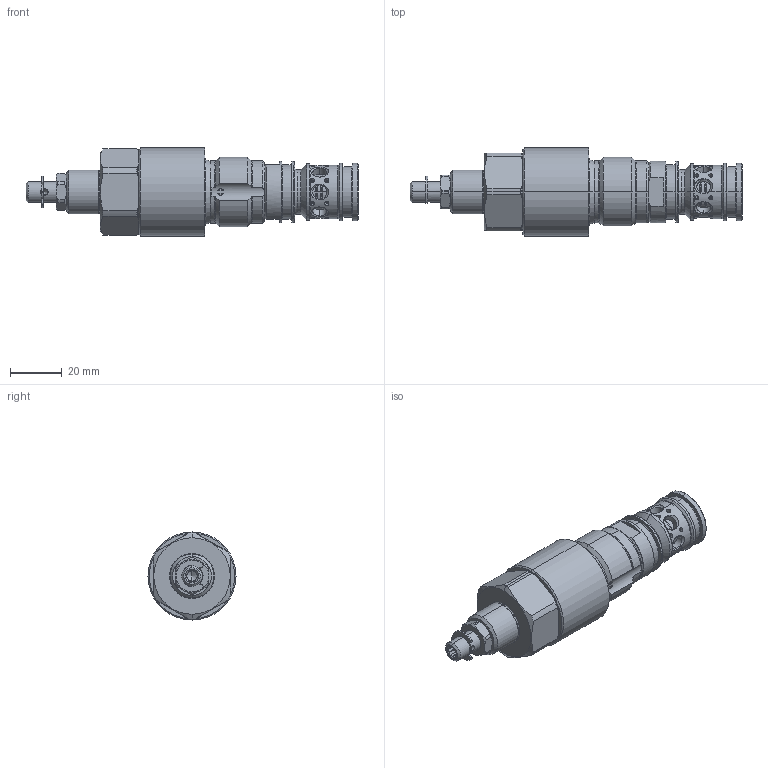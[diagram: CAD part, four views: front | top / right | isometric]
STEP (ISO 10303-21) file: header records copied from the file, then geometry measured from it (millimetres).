
FILE_DESCRIPTION (( 'STEP AP214' ), '1' );
FILE_NAME ('2_5_675.STEP', '2025-07-22T07:59:09', ( '' ), ( '' ), 'SwSTEP 2.0', 'SolidWorks 2024', '' );
FILE_SCHEMA (( 'AUTOMOTIVE_DESIGN' ));
Length unit declared in the file: millimetre
Products named in the file (1): 2_5_675
Bounding box: 128.17 x 34 x 34 mm (x, y, z)
Volume: 60391.2 mm3; surface area: 13675.4 mm2
Topology: 1 solids, 2 shells, 407 faces, 1036 edges, 628 vertices
Faces by surface type: cylinder 160, cone 119, plane 68, torus 60
Entity records: 14102 total; most frequent: CARTESIAN_POINT 4380, ORIENTED_EDGE 2060, DIRECTION 2037, EDGE_CURVE 1030, AXIS2_PLACEMENT_3D 855, VERTEX_POINT 628, EDGE_LOOP 456, CIRCLE 447
